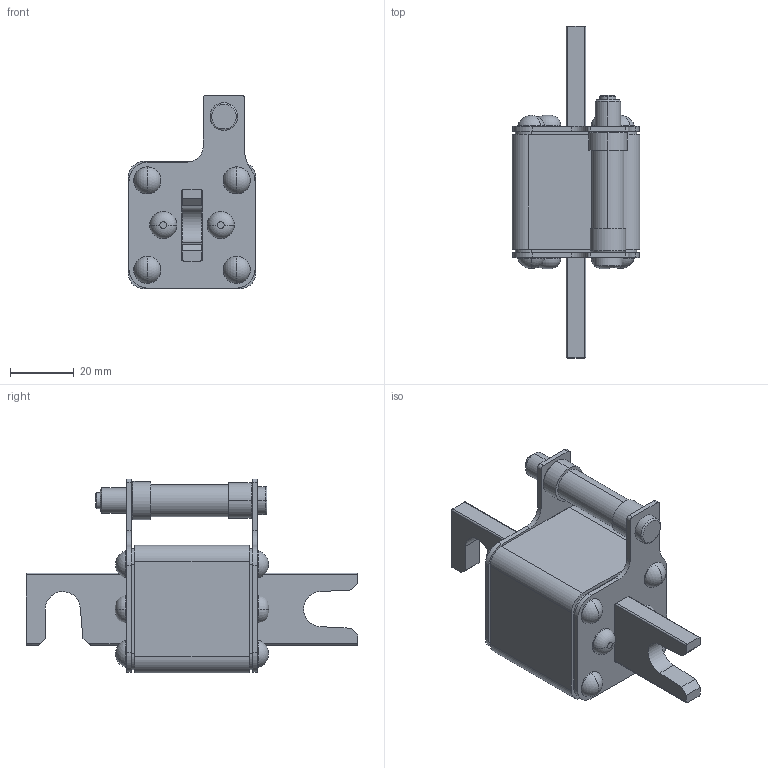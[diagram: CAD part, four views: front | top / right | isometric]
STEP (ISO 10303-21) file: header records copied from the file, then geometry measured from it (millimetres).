
FILE_DESCRIPTION (( 'STEP AP214' ), '1' );
FILE_NAME ('Ïðåäîõðàíèòåëü ÏÍÁ5Ì-380_400-1.STEP', '2023-04-21T06:24:52', ( '' ), ( '' ), 'SwSTEP 2.0', 'SolidWorks 2018', '' );
FILE_SCHEMA (( 'AUTOMOTIVE_DESIGN' ));
Length unit declared in the file: millimetre
Products named in the file (1): Ïðåäîõðàíèòåëü ÏÍÁ5Ì-380_400-1
Bounding box: 40 x 104 x 60.75 mm (x, y, z)
Volume: 75394 mm3; surface area: 19913.4 mm2
Topology: 1 solids, 24 shells, 376 faces, 850 edges, 548 vertices
Faces by surface type: cylinder 164, plane 126, torus 42, cone 28, sphere 16
Entity records: 14864 total; most frequent: DIRECTION 2082, CARTESIAN_POINT 1787, ORIENTED_EDGE 1700, AXIS2_PLACEMENT_3D 859, EDGE_CURVE 850, VERTEX_POINT 548, CIRCLE 482, EDGE_LOOP 428
